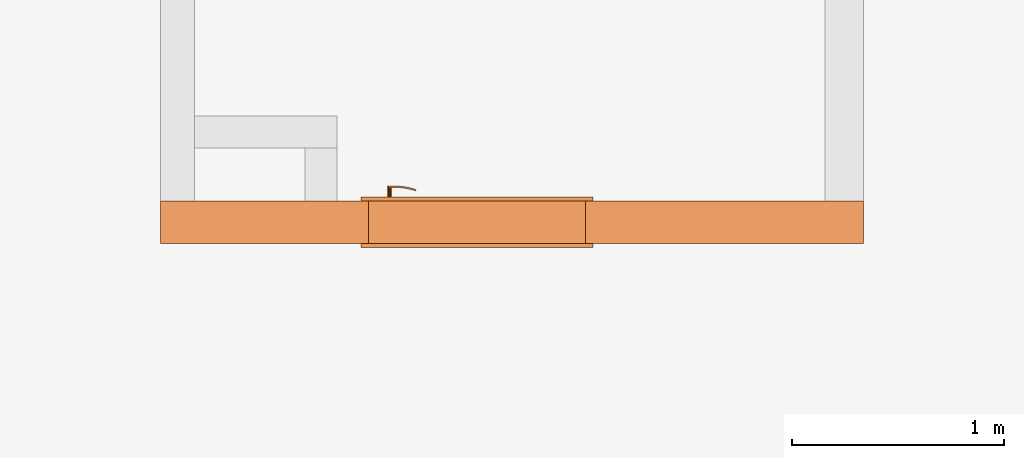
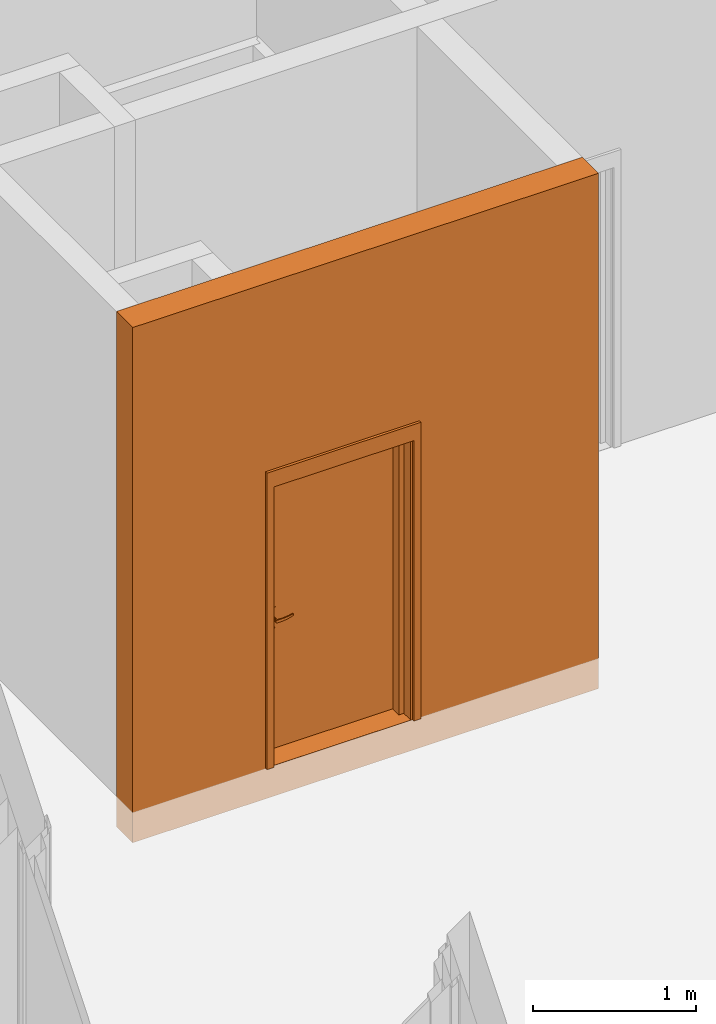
# One storey, part 12 of 46: 2 proxies, 1 opening.
"""IFC2X3 building model written with IfcOpenShell, lengths in millimetres."""

from ifc_helpers import new_model, entity, si_unit, converted_unit, derived_unit, money_unit, direction, frame, origin_with_axes, origin_2d_with_axis, place, context, subcontext, project, spatial, rectangle, extrude, open_shell, faceted_brep, surface_model, source, transform, mapped, material, type_object, element, fill, save


model = new_model("IFC2X3")

# Units and contexts
model_context = context("Model", 3, precision=0.01, world=origin_with_axes(), true_north=direction((0.34421633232, 0.938890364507)))
body_context = subcontext(model_context, "Body", "Model", "MODEL_VIEW")
ifc_project = project(units=[si_unit("LENGTHUNIT", "METRE", prefix="MILLI"), si_unit("AREAUNIT", "SQUARE_METRE"), si_unit("VOLUMEUNIT", "CUBIC_METRE"), converted_unit("PLANEANGLEUNIT", "DEGREE", entity("IfcPlaneAngleMeasure", 0.0174532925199), si_unit("PLANEANGLEUNIT", "RADIAN"), dimensions=[0, 0, 0, 0, 0, 0, 0]), si_unit("SOLIDANGLEUNIT", "STERADIAN"), money_unit("USD"), converted_unit("TIMEUNIT", "Year", entity("IfcTimeMeasure", 31556926.0), si_unit("TIMEUNIT", "SECOND"), dimensions=[0, 0, 1, 0, 0, 0, 0]), si_unit("MASSUNIT", "GRAM", prefix="KILO"), si_unit("THERMODYNAMICTEMPERATUREUNIT", "DEGREE_CELSIUS"), si_unit("LUMINOUSINTENSITYUNIT", "LUMEN"), si_unit("ENERGYUNIT", "JOULE", prefix="MEGA"), derived_unit("THERMALCONDUCTANCEUNIT", [(si_unit("POWERUNIT", "WATT"), 1), (si_unit("LENGTHUNIT", "METRE"), -1), (si_unit("THERMODYNAMICTEMPERATUREUNIT", "KELVIN"), -1)]), derived_unit("SPECIFICHEATCAPACITYUNIT", [(si_unit("ENERGYUNIT", "JOULE"), 1), (si_unit("MASSUNIT", "GRAM", prefix="KILO"), -1), (si_unit("THERMODYNAMICTEMPERATUREUNIT", "KELVIN"), -1)]), derived_unit("MASSDENSITYUNIT", [(si_unit("MASSUNIT", "GRAM", prefix="KILO"), 1), (si_unit("VOLUMEUNIT", "CUBIC_METRE"), -1)])], contexts=[model_context])

# Site, building, storey
site_placement = place(None, origin_with_axes())
site = spatial("IfcSite", under=ifc_project, at=site_placement, Name="USTRONIE MORSKIE", CompositionType="ELEMENT")
building_placement = place(site_placement, origin_with_axes())
building = spatial("IfcBuilding", under=site, at=building_placement, Name="Budynek", CompositionType="ELEMENT")
storey_placement = place(building_placement, origin_with_axes())
storey = spatial("IfcBuildingStorey", under=building, at=storey_placement, Name="PARTER", CompositionType="ELEMENT", Elevation=0.0)

# Proxies, opening
ifc_material = material(Name="Beton konstrukcyjny B25")
building_element_proxy_type_1 = type_object("IfcBuildingElementProxyType", Name="Beton konstrukcyjny B25 200", PredefinedType="NOTDEFINED")
proxy_1_placement = place(storey_placement, frame((359617.923565, 738801.199036, -230.0), z_axis=(0.0, 0.0, 1.0), x_axis=(1.0, 0.0, 0.0)))
proxy_1 = element("IfcBuildingElementProxy", 1, at=proxy_1_placement, inside=storey, type_object=building_element_proxy_type_1, material=ifc_material, Name="SW-01", context=body_context, shape_type="Brep", body=[
    faceted_brep([(-80.0, 100.0, 0.0), (3229.99730875, 100.0, 0.0), (3229.99730875, -100.0, 0.0), (-80.0, -100.0, 0.0), (-80.0, 100.0, 3870.0), (3229.99730875, 100.0, 3870.0), (3229.99730875, -100.0, 3870.0), (-80.0, -100.0, 3870.0)], [[[0, 1, 2, 3]], [[4, 5, 1, 0]], [[2, 1, 5, 6]], [[3, 2, 6, 7]], [[4, 0, 3, 7]], [[7, 6, 5, 4]]]),
])
opening_placement = place(proxy_1_placement, frame((1409.99735394, 0.0, 230.0), z_axis=(0.0, 0.0, 1.0), x_axis=(1.0, 0.0, 0.0)))
opening = element("IfcOpeningElement", 2, at=opening_placement, cuts=proxy_1, Name="Dw.2", context=body_context, shape_type="SweptSolid", body=[
    extrude(rectangle(XDim=1020.0, YDim=2120.0, at=origin_2d_with_axis()), frame((0.0, -200.0, 1060.0), z_axis=(0.0, 1.0, 0.0), x_axis=(1.0, 0.0, 0.0)), (0.0, 0.0, 1.0), 600.0),
    extrude(rectangle(XDim=1094.0, YDim=2227.0, at=origin_2d_with_axis()), frame((0.0, -100.0, 1113.5), z_axis=(0.0, 1.0, 0.0), x_axis=(1.0, 0.0, 0.0)), (0.0, 0.0, -1.0), 200.0),
    extrude(rectangle(XDim=1094.0, YDim=2227.0, at=origin_2d_with_axis()), frame((0.0, 100.0, 1113.5), z_axis=(0.0, -1.0, 0.0), x_axis=(1.0, 0.0, 0.0)), (0.0, 0.0, -1.0), 200.0),
])
building_element_proxy_type_2 = type_object("IfcBuildingElementProxyType", Name="Drzwi 23", PredefinedType="NOTDEFINED")
shared_shape = source(origin_with_axes(), body_context, "Body", "SurfaceModel", [
    faceted_brep([(-510.0, -115.0, 0.0), (-485.0, -115.0, 0.0), (-485.0, -200.0, 0.0), (-510.0, -200.0, 0.0), (-510.0, -115.0, 2120.0), (-485.0, -115.0, 2095.0), (-485.0, -200.0, 2095.0), (-510.0, -200.0, 2120.0)], [[[0, 1, 2, 3]], [[0, 4, 5, 1]], [[1, 5, 6, 2]], [[3, 2, 6, 7]], [[4, 0, 3, 7]], [[5, 4, 7, 6]]]),
    faceted_brep([(510.0, -115.0, 2120.0), (485.0, -115.0, 2095.0), (485.0, -200.0, 2095.0), (510.0, -200.0, 2120.0), (510.0, -115.0, 0.0), (485.0, -115.0, 0.0), (485.0, -200.0, 0.0), (510.0, -200.0, 0.0)], [[[0, 1, 2, 3]], [[0, 4, 5, 1]], [[1, 5, 6, 2]], [[3, 2, 6, 7]], [[4, 0, 3, 7]], [[5, 4, 7, 6]]]),
    faceted_brep([(-485.0, -115.0, 2095.0), (485.0, -115.0, 2095.0), (485.0, -200.0, 2095.0), (-485.0, -200.0, 2095.0), (-510.0, -115.0, 2120.0), (510.0, -115.0, 2120.0), (510.0, -200.0, 2120.0), (-510.0, -200.0, 2120.0)], [[[0, 1, 2, 3]], [[0, 4, 5, 1]], [[1, 5, 6, 2]], [[3, 2, 6, 7]], [[4, 0, 3, 7]], [[5, 4, 7, 6]]]),
    faceted_brep([(-547.0, -219.0, 0.0), (-547.0, -200.0, 0.0), (-497.0, -200.0, 0.0), (-497.0, -219.0, 0.0), (-547.0, -219.0, 2227.0), (-547.0, -200.0, 2227.0), (-497.0, -200.0, 2107.0), (-497.0, -219.0, 2107.0)], [[[0, 1, 2, 3]], [[4, 5, 1, 0]], [[1, 5, 6, 2]], [[3, 2, 6, 7]], [[0, 3, 7, 4]], [[7, 6, 5, 4]]]),
    faceted_brep([(547.0, -219.0, 2227.0), (547.0, -200.0, 2227.0), (497.0, -200.0, 2107.0), (497.0, -219.0, 2107.0), (547.0, -219.0, 0.0), (547.0, -200.0, 0.0), (497.0, -200.0, 0.0), (497.0, -219.0, 0.0)], [[[0, 1, 2, 3]], [[4, 5, 1, 0]], [[1, 5, 6, 2]], [[3, 2, 6, 7]], [[0, 3, 7, 4]], [[7, 6, 5, 4]]]),
    faceted_brep([(-547.0, -219.0, 2227.0), (-547.0, -200.0, 2227.0), (-497.0, -200.0, 2107.0), (-497.0, -219.0, 2107.0), (547.0, -219.0, 2227.0), (547.0, -200.0, 2227.0), (497.0, -200.0, 2107.0), (497.0, -219.0, 2107.0)], [[[0, 1, 2, 3]], [[4, 5, 1, 0]], [[1, 5, 6, 2]], [[3, 2, 6, 7]], [[0, 3, 7, 4]], [[7, 6, 5, 4]]]),
    faceted_brep([(-547.0, 19.0, 0.0), (-497.0, 19.0, 0.0), (-497.0, 0.0, 0.0), (-547.0, 0.0, 0.0), (-547.0, 19.0, 2227.0), (-497.0, 19.0, 2107.0), (-497.0, 0.0, 2107.0), (-547.0, 0.0, 2227.0)], [[[0, 1, 2, 3]], [[0, 4, 5, 1]], [[1, 5, 6, 2]], [[3, 2, 6, 7]], [[4, 0, 3, 7]], [[5, 4, 7, 6]]]),
    faceted_brep([(547.0, 19.0, 2227.0), (497.0, 19.0, 2107.0), (497.0, 0.0, 2107.0), (547.0, 0.0, 2227.0), (547.0, 19.0, 0.0), (497.0, 19.0, 0.0), (497.0, 0.0, 0.0), (547.0, 0.0, 0.0)], [[[0, 1, 2, 3]], [[0, 4, 5, 1]], [[1, 5, 6, 2]], [[3, 2, 6, 7]], [[4, 0, 3, 7]], [[5, 4, 7, 6]]]),
    faceted_brep([(-547.0, 19.0, 2227.0), (-497.0, 19.0, 2107.0), (-497.0, 0.0, 2107.0), (-547.0, 0.0, 2227.0), (547.0, 19.0, 2227.0), (497.0, 19.0, 2107.0), (497.0, 0.0, 2107.0), (547.0, 0.0, 2227.0)], [[[0, 1, 2, 3]], [[0, 4, 5, 1]], [[1, 5, 6, 2]], [[3, 2, 6, 7]], [[4, 0, 3, 7]], [[5, 4, 7, 6]]]),
    faceted_brep([(-450.0, -40.0, 0.0), (-450.0, -40.0, 2050.0), (-450.0, -115.0, 2050.0), (-450.0, -115.0, 0.0), (-462.0, -40.0, 2050.0), (-462.0, -40.0, 0.0), (-462.0, 0.0, 2050.0), (-510.0, 0.0, 2050.0), (-510.0, -115.0, 2050.0), (-510.0, -115.0, 0.0), (-510.0, 0.0, 0.0), (-462.0, 0.0, 0.0)], [[[0, 1, 2, 3]], [[4, 1, 0, 5]], [[4, 6, 7, 8, 2, 1]], [[3, 2, 8, 9]], [[5, 0, 3, 9, 10, 11]], [[6, 4, 5, 11]], [[6, 11, 10, 7]], [[10, 9, 8, 7]]]),
    faceted_brep([(462.0, -40.0, 2050.0), (450.0, -40.0, 2050.0), (450.0, -115.0, 2050.0), (510.0, -115.0, 2050.0), (510.0, 0.0, 2050.0), (462.0, 0.0, 2050.0), (462.0, -40.0, 0.0), (450.0, -40.0, 0.0), (450.0, -115.0, 0.0), (510.0, -115.0, 0.0), (510.0, 0.0, 0.0), (462.0, 0.0, 0.0)], [[[0, 1, 2, 3, 4, 5]], [[1, 0, 6, 7]], [[1, 7, 8, 2]], [[3, 2, 8, 9]], [[4, 3, 9, 10]], [[11, 5, 4, 10]], [[0, 5, 11, 6]], [[6, 11, 10, 9, 8, 7]]]),
    faceted_brep([(-462.0, 0.0, 2062.0), (-462.0, 0.0, 2050.0), (-510.0, 0.0, 2050.0), (-510.0, 0.0, 2120.0), (510.0, 0.0, 2120.0), (510.0, 0.0, 2050.0), (462.0, 0.0, 2050.0), (462.0, 0.0, 2062.0), (-462.0, -40.0, 2062.0), (-462.0, -40.0, 2050.0), (-450.0, -40.0, 2050.0), (-450.0, -115.0, 2050.0), (-510.0, -115.0, 2050.0), (-510.0, -115.0, 2120.0), (510.0, -115.0, 2120.0), (510.0, -115.0, 2050.0), (462.0, -40.0, 2050.0), (450.0, -115.0, 2050.0), (450.0, -40.0, 2050.0), (462.0, -40.0, 2062.0)], [[[0, 1, 2, 3, 4, 5, 6, 7]], [[1, 0, 8, 9]], [[9, 10, 11, 12, 2, 1]], [[2, 12, 13, 3]], [[3, 13, 14, 4]], [[4, 14, 15, 5]], [[16, 6, 5, 15, 17, 18]], [[7, 6, 16, 19]], [[0, 7, 19, 8]], [[16, 18, 10, 9, 8, 19]], [[10, 18, 17, 11]], [[17, 15, 14, 13, 12, 11]]]),
    faceted_brep([(-440.5, -40.0, 1060.0), (-440.5, -43.0, 1060.0), (-383.5, -43.0, 1060.0), (-383.5, -40.0, 1060.0), (-440.5, -40.0, 870.0), (-440.5, -43.0, 870.0), (-383.5, -43.0, 870.0), (-383.5, -40.0, 870.0)], [[[0, 1, 2, 3]], [[4, 5, 1, 0]], [[1, 5, 6, 2]], [[3, 2, 6, 7]], [[0, 3, 7, 4]], [[7, 6, 5, 4]]]),
    faceted_brep([(-412.0, -104.0, 990.0), (-412.0, -111.0, 990.0), (-417.0, -111.0, 991.339745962), (-417.0, -104.0, 991.339745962), (-387.0, -104.0, 990.0), (-387.0, -111.0, 990.0), (-387.0, -111.0, 1010.0), (-412.0, -111.0, 1010.0), (-417.0, -111.0, 1008.66025404), (-420.660254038, -111.0, 1005.0), (-422.0, -111.0, 1000.0), (-420.660254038, -111.0, 995.0), (-420.660254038, -104.0, 995.0), (-422.0, -104.0, 1000.0), (-420.660254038, -104.0, 1005.0), (-417.0, -104.0, 1008.66025404), (-412.0, -104.0, 1010.0), (-387.0, -104.0, 1010.0)], [[[0, 1, 2, 3]], [[4, 5, 1, 0]], [[1, 5, 6, 7, 8, 9, 10, 11, 2]], [[3, 2, 11, 12]], [[0, 3, 12, 13, 14, 15, 16, 17, 4]], [[17, 6, 5, 4]], [[16, 7, 6, 17]], [[15, 8, 7, 16]], [[14, 9, 8, 15]], [[13, 10, 9, 14]], [[12, 11, 10, 13]]]),
    surface_model("IfcShellBasedSurfaceModel", [(-387.0, -104.0, 1010.0), (-373.596090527, -111.0, 1009.60730092), (-373.901717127, -104.0, 1009.60730092), (-387.0, -111.0, 1010.0), (-346.890283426, -108.663544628, 1008.82190275), (-373.901717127, -104.0, 990.392699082), (-387.0, -104.0, 990.0), (-387.0, -111.0, 990.0), (-373.596090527, -111.0, 990.392699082), (-346.890283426, -108.663544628, 991.178097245), (-347.804837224, -101.716818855, 1008.82190275), (-347.804837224, -101.716818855, 991.178097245), (-320.489735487, -104.008415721, 991.963495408), (-320.489735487, -104.008415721, 1008.03650459), (-322.006256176, -97.1678329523, 1008.03650459), (-322.006256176, -97.1678329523, 991.963495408), (-294.59537082, -97.0700416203, 992.748893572), (-294.59537082, -97.0700416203, 1007.25110643), (-296.702316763, -90.3876628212, 1007.25110643), (-296.702316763, -90.3876628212, 992.748893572), (-286.538795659, -94.1376880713, 993.0), (-286.538795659, -94.1376880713, 1007.0), (-288.829442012, -87.5221707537, 1007.0), (-288.829442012, -87.5221707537, 993.0)], [open_shell([[[0, 1, 2]], [[0, 3, 1]], [[2, 1, 4]], [[0, 2, 5, 6]], [[3, 7, 8, 1]], [[1, 8, 9, 4]], [[2, 4, 10]], [[2, 10, 11, 5]], [[5, 7, 6]], [[5, 8, 7]], [[11, 9, 8]], [[4, 9, 12, 13]], [[10, 4, 13]], [[10, 14, 15, 11]], [[11, 8, 5]], [[15, 9, 11]], [[15, 12, 9]], [[13, 12, 16, 17]], [[10, 13, 14]], [[14, 18, 19, 15]], [[19, 12, 15]], [[19, 16, 12]], [[17, 16, 20, 21]], [[14, 13, 17]], [[14, 17, 18]], [[18, 22, 23, 19]], [[23, 16, 19]], [[23, 20, 16]], [[22, 21, 20, 23]], [[18, 17, 21]], [[18, 21, 22]]])]),
    faceted_brep([(-401.607695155, -53.0, 994.0), (-400.741669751, -43.0, 993.5), (-399.0, -43.0, 1000.0), (-400.0, -53.0, 1000.0), (-406.0, -53.0, 989.607695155), (-405.5, -43.0, 988.741669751), (-412.0, -43.0, 987.0), (-418.5, -43.0, 988.741669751), (-423.258330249, -43.0, 993.5), (-425.0, -43.0, 1000.0), (-423.258330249, -43.0, 1006.5), (-418.5, -43.0, 1011.25833025), (-412.0, -43.0, 1013.0), (-405.5, -43.0, 1011.25833025), (-400.741669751, -43.0, 1006.5), (-401.607695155, -53.0, 1006.0), (-406.0, -53.0, 1010.39230485), (-412.0, -53.0, 1012.0), (-418.0, -53.0, 1010.39230485), (-422.392304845, -53.0, 1006.0), (-424.0, -53.0, 1000.0), (-422.392304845, -53.0, 994.0), (-418.0, -53.0, 989.607695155), (-412.0, -53.0, 988.0)], [[[0, 1, 2, 3]], [[4, 5, 1, 0]], [[2, 1, 5, 6, 7, 8, 9, 10, 11, 12, 13, 14]], [[3, 2, 14, 15]], [[3, 15, 16, 17, 18, 19, 20, 21, 22, 23, 4, 0]], [[23, 6, 5, 4]], [[22, 7, 6, 23]], [[21, 8, 7, 22]], [[20, 9, 8, 21]], [[19, 10, 9, 20]], [[18, 11, 10, 19]], [[17, 12, 11, 18]], [[16, 13, 12, 17]], [[15, 14, 13, 16]]]),
    faceted_brep([(-394.679491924, -47.0, 895.0), (-392.947441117, -43.0, 894.0), (-390.0, -43.0, 905.0), (-392.0, -47.0, 905.0), (-402.0, -47.0, 887.679491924), (-401.0, -43.0, 885.947441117), (-412.0, -43.0, 883.0), (-423.0, -43.0, 885.947441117), (-431.052558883, -43.0, 894.0), (-434.0, -43.0, 905.0), (-431.052558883, -43.0, 916.0), (-423.0, -43.0, 924.052558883), (-412.0, -43.0, 927.0), (-401.0, -43.0, 924.052558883), (-392.947441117, -43.0, 916.0), (-394.679491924, -47.0, 915.0), (-402.0, -47.0, 922.320508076), (-412.0, -47.0, 925.0), (-422.0, -47.0, 922.320508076), (-429.320508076, -47.0, 915.0), (-432.0, -47.0, 905.0), (-429.320508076, -47.0, 895.0), (-422.0, -47.0, 887.679491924), (-412.0, -47.0, 885.0)], [[[0, 1, 2, 3]], [[4, 5, 1, 0]], [[2, 1, 5, 6, 7, 8, 9, 10, 11, 12, 13, 14]], [[3, 2, 14, 15]], [[3, 15, 16, 17, 18, 19, 20, 21, 22, 23, 4, 0]], [[23, 6, 5, 4]], [[22, 7, 6, 23]], [[21, 8, 7, 22]], [[20, 9, 8, 21]], [[19, 10, 9, 20]], [[18, 11, 10, 19]], [[17, 12, 11, 18]], [[16, 13, 12, 17]], [[15, 14, 13, 16]]]),
    faceted_brep([(-407.050252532, -49.0, 909.050252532), (-406.343145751, -47.0, 908.343145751), (-404.0, -47.0, 914.0), (-405.0, -49.0, 914.0), (-412.0, -49.0, 907.0), (-412.0, -47.0, 906.0), (-417.656854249, -47.0, 908.343145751), (-420.0, -47.0, 914.0), (-417.656854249, -47.0, 919.656854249), (-412.0, -47.0, 922.0), (-406.343145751, -47.0, 919.656854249), (-407.050252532, -49.0, 918.949747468), (-412.0, -49.0, 921.0), (-416.949747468, -49.0, 918.949747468), (-419.0, -49.0, 914.0), (-416.949747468, -49.0, 909.050252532)], [[[0, 1, 2, 3]], [[4, 5, 1, 0]], [[2, 1, 5, 6, 7, 8, 9, 10]], [[3, 2, 10, 11]], [[3, 11, 12, 13, 14, 15, 4, 0]], [[15, 6, 5, 4]], [[14, 7, 6, 15]], [[13, 8, 7, 14]], [[12, 9, 8, 13]], [[11, 10, 9, 12]]]),
    faceted_brep([(-412.0, -53.0, 1010.0), (-412.0, -104.0, 1010.0), (-407.0, -104.0, 1008.66025404), (-407.0, -53.0, 1008.66025404), (-417.0, -53.0, 1008.66025404), (-417.0, -104.0, 1008.66025404), (-420.660254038, -104.0, 1005.0), (-422.0, -104.0, 1000.0), (-420.660254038, -104.0, 995.0), (-417.0, -104.0, 991.339745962), (-412.0, -104.0, 990.0), (-407.0, -104.0, 991.339745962), (-403.339745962, -104.0, 995.0), (-402.0, -104.0, 1000.0), (-403.339745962, -104.0, 1005.0), (-403.339745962, -53.0, 1005.0), (-402.0, -53.0, 1000.0), (-403.339745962, -53.0, 995.0), (-407.0, -53.0, 991.339745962), (-412.0, -53.0, 990.0), (-417.0, -53.0, 991.339745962), (-420.660254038, -53.0, 995.0), (-422.0, -53.0, 1000.0), (-420.660254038, -53.0, 1005.0)], [[[0, 1, 2, 3]], [[4, 5, 1, 0]], [[1, 5, 6, 7, 8, 9, 10, 11, 12, 13, 14, 2]], [[3, 2, 14, 15]], [[0, 3, 15, 16, 17, 18, 19, 20, 21, 22, 23, 4]], [[23, 6, 5, 4]], [[22, 7, 6, 23]], [[21, 8, 7, 22]], [[20, 9, 8, 21]], [[19, 10, 9, 20]], [[18, 11, 10, 19]], [[17, 12, 11, 18]], [[16, 13, 12, 17]], [[15, 14, 13, 16]]]),
    faceted_brep([(-440.5, 0.0, 1060.0), (-383.5, 0.0, 1060.0), (-383.5, 3.0, 1060.0), (-440.5, 3.0, 1060.0), (-440.5, 0.0, 870.0), (-383.5, 0.0, 870.0), (-383.5, 3.0, 870.0), (-440.5, 3.0, 870.0)], [[[0, 1, 2, 3]], [[0, 4, 5, 1]], [[1, 5, 6, 2]], [[3, 2, 6, 7]], [[4, 0, 3, 7]], [[5, 4, 7, 6]]]),
    faceted_brep([(-412.0, 64.0, 990.0), (-417.0, 64.0, 991.339745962), (-417.0, 71.0, 991.339745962), (-412.0, 71.0, 990.0), (-387.0, 64.0, 990.0), (-387.0, 64.0, 1010.0), (-412.0, 64.0, 1010.0), (-417.0, 64.0, 1008.66025404), (-420.660254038, 64.0, 1005.0), (-422.0, 64.0, 1000.0), (-420.660254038, 64.0, 995.0), (-420.660254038, 71.0, 995.0), (-422.0, 71.0, 1000.0), (-420.660254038, 71.0, 1005.0), (-417.0, 71.0, 1008.66025404), (-412.0, 71.0, 1010.0), (-387.0, 71.0, 1010.0), (-387.0, 71.0, 990.0)], [[[0, 1, 2, 3]], [[0, 4, 5, 6, 7, 8, 9, 10, 1]], [[1, 10, 11, 2]], [[3, 2, 11, 12, 13, 14, 15, 16, 17]], [[4, 0, 3, 17]], [[5, 4, 17, 16]], [[6, 5, 16, 15]], [[7, 6, 15, 14]], [[8, 7, 14, 13]], [[9, 8, 13, 12]], [[10, 9, 12, 11]]]),
    surface_model("IfcShellBasedSurfaceModel", [(-387.0, 64.0, 1010.0), (-373.901717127, 64.0, 1009.60730092), (-373.596090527, 71.0, 1009.60730092), (-387.0, 64.0, 990.0), (-373.901717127, 64.0, 990.392699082), (-346.890283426, 68.6635446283, 1008.82190275), (-387.0, 71.0, 1010.0), (-387.0, 71.0, 990.0), (-347.804837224, 61.716818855, 991.178097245), (-347.804837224, 61.716818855, 1008.82190275), (-346.890283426, 68.6635446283, 991.178097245), (-373.596090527, 71.0, 990.392699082), (-322.006256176, 57.1678329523, 991.963495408), (-322.006256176, 57.1678329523, 1008.03650459), (-320.489735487, 64.0084157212, 1008.03650459), (-320.489735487, 64.0084157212, 991.963495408), (-296.702316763, 50.3876628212, 992.748893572), (-296.702316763, 50.3876628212, 1007.25110643), (-294.59537082, 57.0700416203, 1007.25110643), (-294.59537082, 57.0700416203, 992.748893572), (-288.829442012, 47.5221707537, 993.0), (-288.829442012, 47.5221707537, 1007.0), (-286.538795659, 54.1376880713, 1007.0), (-286.538795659, 54.1376880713, 993.0)], [open_shell([[[0, 1, 2]], [[0, 3, 4, 1]], [[1, 5, 2]], [[0, 2, 6]], [[4, 3, 7]], [[1, 4, 8, 9]], [[1, 9, 5]], [[2, 5, 10, 11]], [[6, 2, 11, 7]], [[4, 7, 11]], [[8, 4, 11]], [[9, 8, 12, 13]], [[9, 14, 5]], [[5, 14, 15, 10]], [[8, 11, 10]], [[12, 8, 10]], [[13, 12, 16, 17]], [[9, 13, 14]], [[14, 18, 19, 15]], [[12, 10, 15]], [[16, 12, 15]], [[17, 16, 20, 21]], [[13, 17, 18]], [[13, 18, 14]], [[18, 22, 23, 19]], [[16, 15, 19]], [[20, 16, 19]], [[21, 20, 23, 22]], [[17, 21, 22]], [[17, 22, 18]], [[20, 19, 23]]])]),
    faceted_brep([(-401.607695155, 13.0, 994.0), (-400.0, 13.0, 1000.0), (-399.0, 3.0, 1000.0), (-400.741669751, 3.0, 993.5), (-406.0, 13.0, 989.607695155), (-412.0, 13.0, 988.0), (-418.0, 13.0, 989.607695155), (-422.392304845, 13.0, 994.0), (-424.0, 13.0, 1000.0), (-422.392304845, 13.0, 1006.0), (-418.0, 13.0, 1010.39230485), (-412.0, 13.0, 1012.0), (-406.0, 13.0, 1010.39230485), (-401.607695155, 13.0, 1006.0), (-400.741669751, 3.0, 1006.5), (-405.5, 3.0, 1011.25833025), (-412.0, 3.0, 1013.0), (-418.5, 3.0, 1011.25833025), (-423.258330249, 3.0, 1006.5), (-425.0, 3.0, 1000.0), (-423.258330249, 3.0, 993.5), (-418.5, 3.0, 988.741669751), (-412.0, 3.0, 987.0), (-405.5, 3.0, 988.741669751)], [[[0, 1, 2, 3]], [[1, 0, 4, 5, 6, 7, 8, 9, 10, 11, 12, 13]], [[1, 13, 14, 2]], [[2, 14, 15, 16, 17, 18, 19, 20, 21, 22, 23, 3]], [[4, 0, 3, 23]], [[5, 4, 23, 22]], [[6, 5, 22, 21]], [[7, 6, 21, 20]], [[8, 7, 20, 19]], [[9, 8, 19, 18]], [[10, 9, 18, 17]], [[11, 10, 17, 16]], [[12, 11, 16, 15]], [[13, 12, 15, 14]]]),
    faceted_brep([(-394.679491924, 7.0, 895.0), (-392.0, 7.0, 905.0), (-390.0, 3.0, 905.0), (-392.947441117, 3.0, 894.0), (-402.0, 7.0, 887.679491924), (-412.0, 7.0, 885.0), (-422.0, 7.0, 887.679491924), (-429.320508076, 7.0, 895.0), (-432.0, 7.0, 905.0), (-429.320508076, 7.0, 915.0), (-422.0, 7.0, 922.320508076), (-412.0, 7.0, 925.0), (-402.0, 7.0, 922.320508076), (-394.679491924, 7.0, 915.0), (-392.947441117, 3.0, 916.0), (-401.0, 3.0, 924.052558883), (-412.0, 3.0, 927.0), (-423.0, 3.0, 924.052558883), (-431.052558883, 3.0, 916.0), (-434.0, 3.0, 905.0), (-431.052558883, 3.0, 894.0), (-423.0, 3.0, 885.947441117), (-412.0, 3.0, 883.0), (-401.0, 3.0, 885.947441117)], [[[0, 1, 2, 3]], [[1, 0, 4, 5, 6, 7, 8, 9, 10, 11, 12, 13]], [[1, 13, 14, 2]], [[2, 14, 15, 16, 17, 18, 19, 20, 21, 22, 23, 3]], [[4, 0, 3, 23]], [[5, 4, 23, 22]], [[6, 5, 22, 21]], [[7, 6, 21, 20]], [[8, 7, 20, 19]], [[9, 8, 19, 18]], [[10, 9, 18, 17]], [[11, 10, 17, 16]], [[12, 11, 16, 15]], [[13, 12, 15, 14]]]),
    faceted_brep([(-407.050252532, 9.0, 909.050252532), (-405.0, 9.0, 914.0), (-404.0, 7.0, 914.0), (-406.343145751, 7.0, 908.343145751), (-412.0, 9.0, 907.0), (-416.949747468, 9.0, 909.050252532), (-419.0, 9.0, 914.0), (-416.949747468, 9.0, 918.949747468), (-412.0, 9.0, 921.0), (-407.050252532, 9.0, 918.949747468), (-406.343145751, 7.0, 919.656854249), (-412.0, 7.0, 922.0), (-417.656854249, 7.0, 919.656854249), (-420.0, 7.0, 914.0), (-417.656854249, 7.0, 908.343145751), (-412.0, 7.0, 906.0)], [[[0, 1, 2, 3]], [[1, 0, 4, 5, 6, 7, 8, 9]], [[1, 9, 10, 2]], [[2, 10, 11, 12, 13, 14, 15, 3]], [[4, 0, 3, 15]], [[5, 4, 15, 14]], [[6, 5, 14, 13]], [[7, 6, 13, 12]], [[8, 7, 12, 11]], [[9, 8, 11, 10]]]),
    faceted_brep([(-412.0, 13.0, 1010.0), (-407.0, 13.0, 1008.66025404), (-407.0, 64.0, 1008.66025404), (-412.0, 64.0, 1010.0), (-417.0, 13.0, 1008.66025404), (-420.660254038, 13.0, 1005.0), (-422.0, 13.0, 1000.0), (-420.660254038, 13.0, 995.0), (-417.0, 13.0, 991.339745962), (-412.0, 13.0, 990.0), (-407.0, 13.0, 991.339745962), (-403.339745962, 13.0, 995.0), (-402.0, 13.0, 1000.0), (-403.339745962, 13.0, 1005.0), (-403.339745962, 64.0, 1005.0), (-402.0, 64.0, 1000.0), (-403.339745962, 64.0, 995.0), (-407.0, 64.0, 991.339745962), (-412.0, 64.0, 990.0), (-417.0, 64.0, 991.339745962), (-420.660254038, 64.0, 995.0), (-422.0, 64.0, 1000.0), (-420.660254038, 64.0, 1005.0), (-417.0, 64.0, 1008.66025404)], [[[0, 1, 2, 3]], [[0, 4, 5, 6, 7, 8, 9, 10, 11, 12, 13, 1]], [[1, 13, 14, 2]], [[3, 2, 14, 15, 16, 17, 18, 19, 20, 21, 22, 23]], [[4, 0, 3, 23]], [[5, 4, 23, 22]], [[6, 5, 22, 21]], [[7, 6, 21, 20]], [[8, 7, 20, 19]], [[9, 8, 19, 18]], [[10, 9, 18, 17]], [[11, 10, 17, 16]], [[12, 11, 16, 15]], [[13, 12, 15, 14]]]),
    faceted_brep([(462.0, 0.0, 0.0), (462.0, -40.0, 0.0), (-462.0, -40.0, 0.0), (-462.0, 0.0, 0.0), (462.0, 0.0, 2062.0), (462.0, -40.0, 2062.0), (-462.0, -40.0, 2062.0), (-462.0, 0.0, 2062.0)], [[[0, 1, 2, 3]], [[4, 5, 1, 0]], [[1, 5, 6, 2]], [[3, 2, 6, 7]], [[0, 3, 7, 4]], [[7, 6, 5, 4]]]),
])
proxy_2_placement = place(opening_placement, frame((-450.0, 0.0, 0.0), z_axis=(0.0, 0.0, 1.0), x_axis=(1.0, 0.0, 0.0)))
proxy_2 = element("IfcBuildingElementProxy", 3, at=proxy_2_placement, inside=storey, type_object=building_element_proxy_type_2, Name="Dw.2", context=body_context, shape_type="MappedRepresentation", body=[
    mapped(shared_shape, transform((450.0, 100.0, 0.0))),
])
fill(opening, proxy_2)

save(model, "model.ifc")
